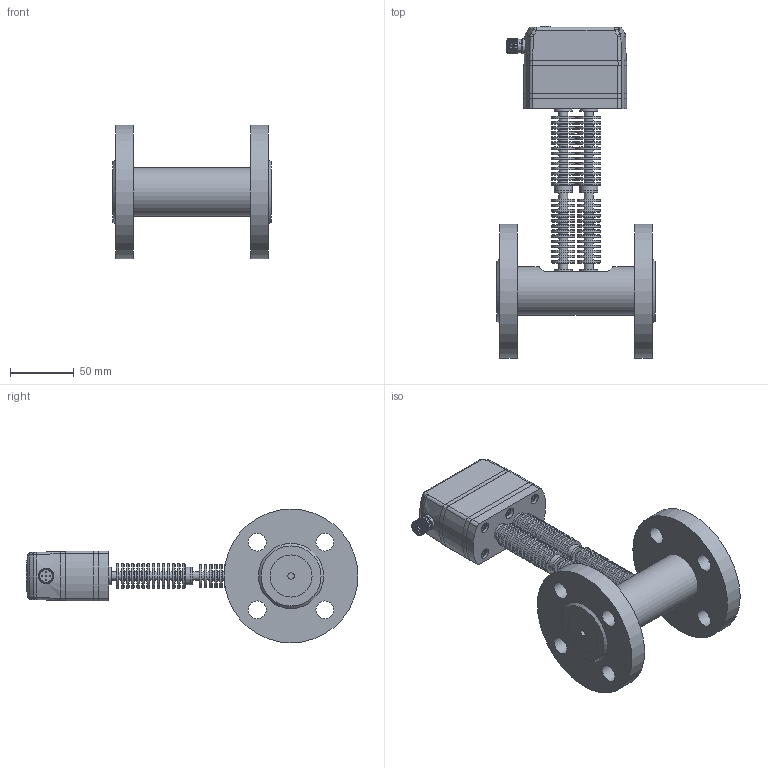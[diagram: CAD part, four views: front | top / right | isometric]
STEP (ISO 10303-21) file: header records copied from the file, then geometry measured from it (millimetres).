
FILE_DESCRIPTION( (''), '2;1');
FILE_NAME( 'QEKH_DN20_flange_cooling-fins_2.step', '2025-04-29T15:06:37+08:00', (''), (''), '', '', '');
FILE_SCHEMA (('AUTOMOTIVE_DESIGN { 1 0 10303 214 3 1 1 1 }'));
Length unit declared in the file: millimetre
Products named in the file (1): QEKH DN20_flange_cooling-fins_2
Bounding box: 124 x 260.4 x 105 mm (x, y, z)
Volume: 565619.3 mm3; surface area: 174461.8 mm2
Topology: 30 solids, 33 shells, 1893 faces, 4392 edges, 2792 vertices
Faces by surface type: plane 865, cylinder 416, cone 264, extrusion 239, torus 52, bspline 48, sphere 9
Full cylindrical faces by diameter (mm): 1 x10, 2.05 x4, 2.6 x4, 2.7 x5, 2.874 x4, 3 x8, 3.1 x1, 3.3 x8, 3.5 x7, 3.838 x6, 4.2 x2, 4.5 x12, 5 x3, 5.5 x10, 7 x62, 8 x4, 9 x2, 9.8 x2, 10.8 x1, 11 x8, 11.5 x2, 11.992 x2, 12 x8, 14 x18, 14.5 x2, 17 x2, 18 x26, 19 x28, 19.1 x6, 33 x4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
Entity records: 57986 total; most frequent: CARTESIAN_POINT 17404, DIRECTION 7751, ORIENTED_EDGE 7622, EDGE_CURVE 3811, AXIS2_PLACEMENT_3D 2835, VERTEX_POINT 2699, EDGE_LOOP 2676, VECTOR 2081
